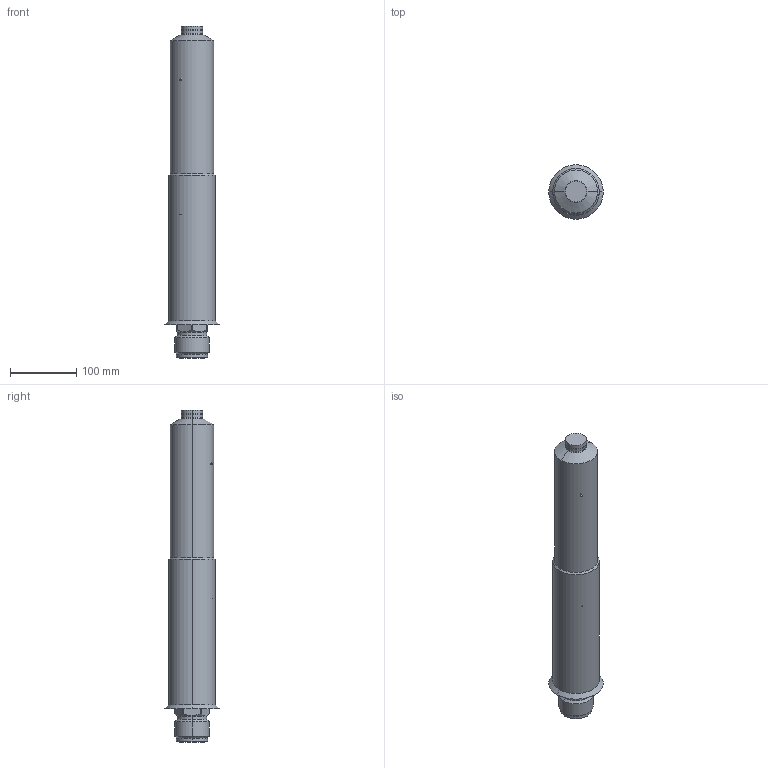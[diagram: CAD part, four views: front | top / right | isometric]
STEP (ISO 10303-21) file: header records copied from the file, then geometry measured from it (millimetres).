
FILE_DESCRIPTION (( 'STEP AP214' ), '1' );
FILE_NAME ('T20_CLOSED_450_HELICAL_70.STEP', '2016-09-08T18:33:30', ( '' ), ( '' ), 'SwSTEP 2.0', 'SolidWorks 2015', '' );
FILE_SCHEMA (( 'AUTOMOTIVE_DESIGN' ));
Length unit declared in the file: millimetre
Products named in the file (1): T20_CLOSED_450_HELICAL_70
Bounding box: 82 x 82 x 500 mm (x, y, z)
Volume: 2451272.2 mm3; surface area: 196613.4 mm2
Topology: 2 solids, 2 shells, 320 faces, 869 edges, 554 vertices
Faces by surface type: cylinder 106, plane 94, bspline 66, torus 30, cone 24
Entity records: 27514 total; most frequent: CARTESIAN_POINT 16650, ORIENTED_EDGE 1738, DIRECTION 1314, EDGE_CURVE 869, VERTEX_POINT 554, AXIS2_PLACEMENT_3D 510, EDGE_LOOP 329, UNCERTAINTY_MEASURE_WITH_UNIT 324
